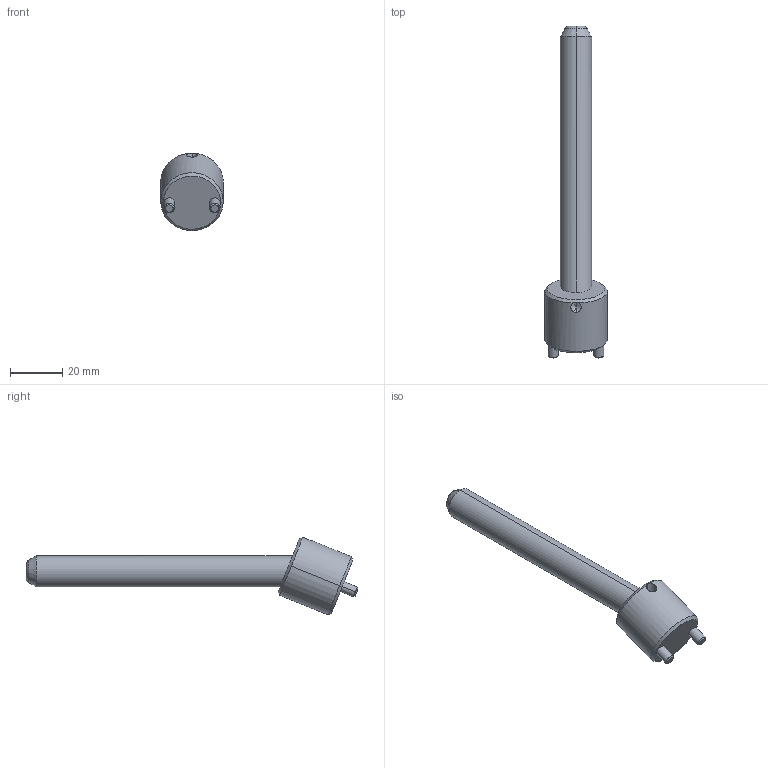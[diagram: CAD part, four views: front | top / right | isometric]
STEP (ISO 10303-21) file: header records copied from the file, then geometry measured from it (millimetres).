
FILE_DESCRIPTION(('CATIA V5 STEP Exchange'),'2;1');
FILE_NAME('C:\Users\Raffaele\Desktop\3D BOLEX\3D FILES CF BOLEX\19-INCLINED ASSEMBLY REF_CI\CI2212100.stp','2019-06-21T10:21:20+00:00',('none'),('none'),'CATIA Version 5 Release 20 GA (IN-10)','CATIA V5 STEP AP203','none');
FILE_SCHEMA(('CONFIG_CONTROL_DESIGN'));
Length unit declared in the file: millimetre
Products named in the file (1): CI2212100
Assembly tree (2 placements, depth 2):
  CI2212100
    #58
    #578
Bounding box: 24 x 127.46 x 29.7 mm (x, y, z)
Volume: 21029.5 mm3; surface area: 7953 mm2
Topology: 2 solids, 2 shells, 39 faces, 85 edges, 49 vertices
Faces by surface type: cone 14, cylinder 14, plane 7, torus 4
Entity records: 1497 total; most frequent: CARTESIAN_POINT 626, ORIENTED_EDGE 166, DIRECTION 145, EDGE_CURVE 83, AXIS2_PLACEMENT_3D 72, VERTEX_POINT 49, EDGE_LOOP 42, ADVANCED_FACE 39
